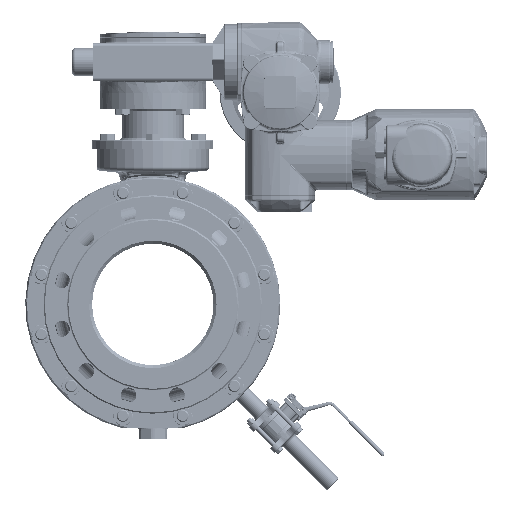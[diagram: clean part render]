
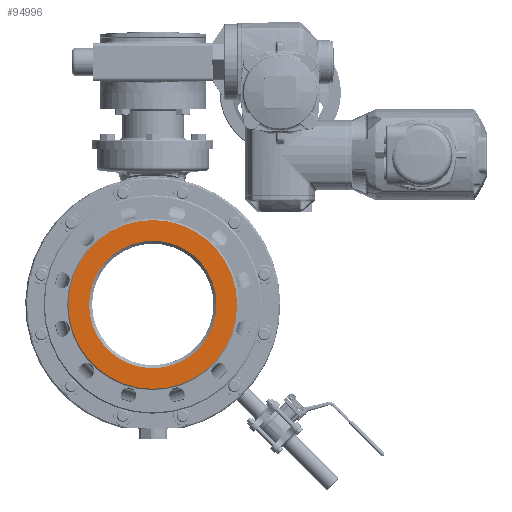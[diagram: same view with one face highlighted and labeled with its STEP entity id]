
A CAD part, left-side view. The second image highlights one B-rep face of the part: STEP entity #94996.
In plain terms, the highlighted planar face has unit normal (-1, 0, 0).
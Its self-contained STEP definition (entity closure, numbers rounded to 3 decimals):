
#19932=CARTESIAN_POINT('',(-228.5,0.,0.));
#19933=DIRECTION('',(1.,0.,0.));
#19934=DIRECTION('',(0.,0.,1.));
#19935=AXIS2_PLACEMENT_3D('',#19932,#19933,#19934);
#19937=CARTESIAN_POINT('',(-228.5,0.,0.));
#19938=DIRECTION('',(-1.,0.,0.));
#19939=DIRECTION('',(0.,0.,1.));
#19940=AXIS2_PLACEMENT_3D('',#19937,#19938,#19939);
#19942=CARTESIAN_POINT('',(-228.5,0.,0.));
#19943=DIRECTION('',(-1.,0.,0.));
#19944=DIRECTION('',(0.,0.,1.));
#19945=AXIS2_PLACEMENT_3D('',#19942,#19943,#19944);
#19969=CARTESIAN_POINT('',(-228.5,0.,0.));
#19970=DIRECTION('',(1.,0.,0.));
#19971=DIRECTION('',(0.,0.,1.));
#19972=AXIS2_PLACEMENT_3D('',#19969,#19970,#19971);
#38646=CARTESIAN_POINT('',(-228.5,0.,105.));
#38647=CARTESIAN_POINT('',(-228.5,0.,-105.));
#38648=VERTEX_POINT('',#38646);
#38649=VERTEX_POINT('',#38647);
#38668=CARTESIAN_POINT('',(-228.5,0.,139.));
#38669=CARTESIAN_POINT('',(-228.5,0.,-139.));
#38670=VERTEX_POINT('',#38668);
#38671=VERTEX_POINT('',#38669);
#94981=CARTESIAN_POINT('',(-228.5,0.,0.));
#94982=DIRECTION('',(-1.,0.,0.));
#94983=DIRECTION('',(0.,0.,-1.));
#94984=AXIS2_PLACEMENT_3D('',#94981,#94982,#94983);
#94985=PLANE('',#94984);
#94986=ORIENTED_EDGE('',*,*,#94948,.T.);
#94987=ORIENTED_EDGE('',*,*,#94963,.F.);
#94988=EDGE_LOOP('',(#94986,#94987));
#94989=FACE_OUTER_BOUND('',#94988,.F.);
#94991=ORIENTED_EDGE('',*,*,#94990,.T.);
#94993=ORIENTED_EDGE('',*,*,#94992,.F.);
#94994=EDGE_LOOP('',(#94991,#94993));
#94995=FACE_BOUND('',#94994,.F.);
#94996=ADVANCED_FACE('',(#94989,#94995),#94985,.T.);
#19936=CIRCLE('',#19935,139.);
#19941=CIRCLE('',#19940,139.);
#19946=CIRCLE('',#19945,105.);
#19973=CIRCLE('',#19972,105.);
#94948=EDGE_CURVE('',#38670,#38671,#19936,.T.);
#94963=EDGE_CURVE('',#38670,#38671,#19941,.T.);
#94990=EDGE_CURVE('',#38648,#38649,#19946,.T.);
#94992=EDGE_CURVE('',#38648,#38649,#19973,.T.);
